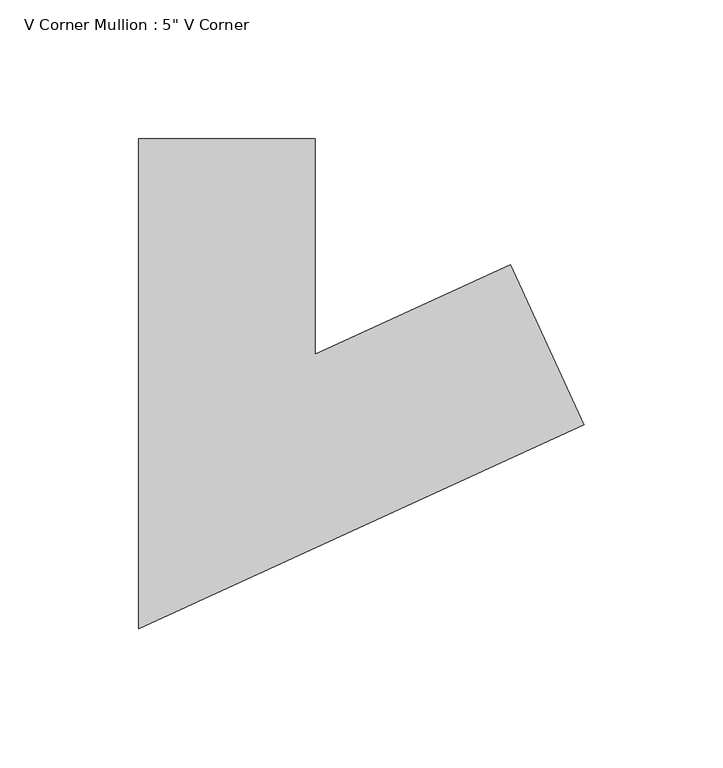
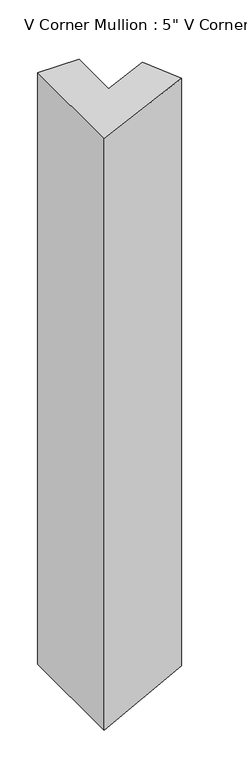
"""IFC4 building model written with IfcOpenShell, lengths in millimetres: member geometry."""

import ifcopenshell
import ifcopenshell.guid

model = None  # the IFC model being written
_history = None  # IfcOwnerHistory: only IFC2X3 demands one
_inside = {}  # id of a spatial element -> (the spatial element, [elements in it])
_under = {}  # id of a project, library or spatial element -> (it, [spatial elements below it])
_declared = {}  # id of a project -> (the project, [libraries it declares])
_typed = {}  # id of a type object -> (the type object, [elements of that type])
_made_of = {}  # id of a material, layer set ... -> (it, [elements and type objects made of it])


def new_model(schema):
    """Start an empty IFC model of exactly this schema.

    Asked for "IFC4X3", IfcOpenShell would pick the latest addendum, in which some entities
    have other attributes; the version numbers below select the first issue.
    IFC2X3 requires an IfcOwnerHistory on every rooted entity: one is made here for all.
    """
    global model, _history
    if schema == "IFC4X3":
        model = ifcopenshell.file(schema_version=(4, 3, 0, 0))
    else:
        model = ifcopenshell.file(schema=schema)
    _inside.clear()
    _under.clear()
    _declared.clear()
    _typed.clear()
    _made_of.clear()
    _history = None
    if model.schema == "IFC2X3":
        org = make("IfcOrganization", Name="unknown")
        user = make(
            "IfcPersonAndOrganization",
            ThePerson=make("IfcPerson", FamilyName="unknown"),
            TheOrganization=org,
        )
        app = make(
            "IfcApplication",
            ApplicationDeveloper=org,
            Version="unknown",
            ApplicationFullName="unknown",
            ApplicationIdentifier="unknown",
        )
        _history = make(
            "IfcOwnerHistory",
            OwningUser=user,
            OwningApplication=app,
            ChangeAction="ADDED",
            CreationDate=0,
        )
    return model


def make(cls, **values):
    """One entity of the class cls with the attributes given. An attribute that is None is left unset."""
    return model.create_entity(
        cls, **{name: value for name, value in values.items() if value is not None}
    )


def rooted(cls, **values):
    """An entity with a GlobalId (a new one), such as an element, a storey or a relation."""
    return make(cls, GlobalId=ifcopenshell.guid.new(), OwnerHistory=_history, **values)


def si_unit(unit_type, name, prefix=None):
    """IfcSIUnit, for example si_unit("LENGTHUNIT", "METRE", prefix="MILLI")."""
    return make("IfcSIUnit", UnitType=unit_type, Prefix=prefix, Name=name)


def assignment(units):
    """IfcUnitAssignment: the units of a project."""
    return None if units is None else make("IfcUnitAssignment", Units=units)


def point(xyz):
    """IfcCartesianPoint."""
    return None if xyz is None else make("IfcCartesianPoint", Coordinates=xyz)


def direction(xyz):
    """IfcDirection."""
    return None if xyz is None else make("IfcDirection", DirectionRatios=xyz)


def frame(location, z_axis=None, x_axis=None):
    """IfcAxis2Placement3D, a coordinate frame: its origin and axes. An axis left out is left unset."""
    return make(
        "IfcAxis2Placement3D",
        Location=point(location),
        Axis=direction(z_axis),
        RefDirection=direction(x_axis),
    )


def origin():
    """The frame at (0, 0, 0) with its axes left unset."""
    return frame((0.0, 0.0, 0.0))


def place(relative_to, where):
    """IfcLocalPlacement: puts the frame where relative to a parent placement (None: the world)."""
    return make(
        "IfcLocalPlacement", PlacementRelTo=relative_to, RelativePlacement=where
    )


def context(
    kind, dimensions, precision=None, world=None, true_north=None, identifier=None
):
    """IfcGeometricRepresentationContext, for example the 3D "Model" context."""
    return make(
        "IfcGeometricRepresentationContext",
        ContextIdentifier=identifier,
        ContextType=kind,
        CoordinateSpaceDimension=dimensions,
        Precision=precision,
        WorldCoordinateSystem=world,
        TrueNorth=true_north,
    )


def project(units=None, contexts=None):
    """IfcProject with its units and contexts."""
    return rooted(
        "IfcProject",
        Name="project",
        RepresentationContexts=contexts,
        UnitsInContext=assignment(units),
    )


def spatial(cls, under=None, at=None, **own):
    """A site, building, storey or space (cls), placed at a placement, below another one or the project."""
    s = rooted(cls, ObjectPlacement=at, **own)
    if under is not None:
        _under.setdefault(under.id(), (under, []))[1].append(s)
    return s


def faces_of(points, faces, orient=None, outer=None):
    """IfcFace entities. A face is a list of loops; a loop is a list of indices into points, from 0.

    orient and outer hold one flag for each loop. By default every Orientation is true, the
    first loop of a face is its IfcFaceOuterBound and the others are IfcFaceBound.
    """
    made = []
    for i, loops in enumerate(faces):
        bounds = []
        for j, loop in enumerate(loops):
            is_outer = j == 0 if outer is None else outer[i][j]
            bounds.append(
                make(
                    "IfcFaceOuterBound" if is_outer else "IfcFaceBound",
                    Bound=make("IfcPolyLoop", Polygon=[points[k] for k in loop]),
                    Orientation=True if orient is None else orient[i][j],
                )
            )
        made.append(make("IfcFace", Bounds=bounds))
    return made


def faceted_brep(points, faces, orient=None, outer=None, voids=None):
    """IfcFacetedBrep: a solid bounded by flat faces; with voids (closed shells), ...WithVoids."""
    shared = [point(p) for p in points]
    hull = make("IfcClosedShell", CfsFaces=faces_of(shared, faces, orient, outer))
    if voids is None:
        return make("IfcFacetedBrep", Outer=hull)
    return make(
        "IfcFacetedBrepWithVoids",
        Outer=hull,
        Voids=[
            make(cls, CfsFaces=faces_of(shared, fs, o, b)) for cls, fs, o, b in voids
        ],
    )


def shape(context_of_items, identifier, shape_type, items):
    """IfcShapeRepresentation: the items that make up one representation, for example the "Body"."""
    return make(
        "IfcShapeRepresentation",
        ContextOfItems=context_of_items,
        RepresentationIdentifier=identifier,
        RepresentationType=shape_type,
        Items=items,
    )


def source(mapping_origin, context_of_items, identifier, shape_type, items):
    """IfcRepresentationMap: a shape defined once, which mapped items show again and again."""
    return make(
        "IfcRepresentationMap",
        MappingOrigin=mapping_origin,
        MappedRepresentation=shape(context_of_items, identifier, shape_type, items),
    )


def transform(
    local_origin,
    x_axis=None,
    y_axis=None,
    z_axis=None,
    scale=None,
    scale2=None,
    scale3=None,
    uniform=True,
):
    """IfcCartesianTransformationOperator3D, or its non-uniform kind. x_axis, y_axis, z_axis: its Axis1, 2, 3."""
    if uniform:
        return make(
            "IfcCartesianTransformationOperator3D",
            Axis1=direction(x_axis),
            Axis2=direction(y_axis),
            LocalOrigin=point(local_origin),
            Scale=scale,
            Axis3=direction(z_axis),
        )
    return make(
        "IfcCartesianTransformationOperator3DnonUniform",
        Axis1=direction(x_axis),
        Axis2=direction(y_axis),
        LocalOrigin=point(local_origin),
        Scale=scale,
        Axis3=direction(z_axis),
        Scale2=scale2,
        Scale3=scale3,
    )


def mapped(mapping_source, mapping_target):
    """IfcMappedItem: shows the shape of a source again, moved by a transform."""
    return make(
        "IfcMappedItem", MappingSource=mapping_source, MappingTarget=mapping_target
    )


def made_of(thing, what):
    """Note that an element or type object is made of a material, layer set ...; save() writes the relation."""
    if what is not None:
        _made_of.setdefault(what.id(), (what, []))[1].append(thing)
    return thing


def element(
    cls,
    number,
    at=None,
    inside=None,
    cuts=None,
    type_object=None,
    material=None,
    context=None,
    identifier="Body",
    shape_type=None,
    held_by="IfcProductDefinitionShape",
    body=None,
    shapes=None,
    **own,
):
    """One element of the class cls, such as IfcWall. Its Tag is "e" and its number.

    at: its placement. inside: the storey or other place that contains it. cuts: it is an
    opening in that element (IfcRelVoidsElement). A single representation is given by context,
    identifier, shape_type and body (its items); several are given by shapes. held_by: the class
    of the entity that holds the representations. save() writes the other relations.
    """
    e = rooted(cls, Tag="e%d" % number, ObjectPlacement=at, **own)
    if body is not None:
        shapes = [shape(context, identifier, shape_type, body)]
    if shapes is not None:
        e.Representation = make(held_by, Representations=shapes)
    if inside is not None:
        _inside.setdefault(inside.id(), (inside, []))[1].append(e)
    if cuts is not None:
        rooted(
            "IfcRelVoidsElement", RelatingBuildingElement=cuts, RelatedOpeningElement=e
        )
    if type_object is not None:
        _typed.setdefault(type_object.id(), (type_object, []))[1].append(e)
    return made_of(e, material)


def aggregate(whole, parts):
    """IfcRelAggregates: a whole, such as a stair, and the parts it consists of."""
    return rooted("IfcRelAggregates", RelatingObject=whole, RelatedObjects=parts)


def save(model, path):
    """Write the relations noted so far, then the file.

    IfcRelAggregates (storeys below a building ...), IfcRelContainedInSpatialStructure (elements
    in a storey), IfcRelDefinesByType, IfcRelAssociatesMaterial and IfcRelDeclares: one each for
    every whole, place, type object, material and project.
    """
    for whole, parts in _under.values():
        aggregate(whole, parts)
    for where, things in _inside.values():
        rooted(
            "IfcRelContainedInSpatialStructure",
            RelatedElements=things,
            RelatingStructure=where,
        )
    for kind, things in _typed.values():
        rooted("IfcRelDefinesByType", RelatedObjects=things, RelatingType=kind)
    for what, things in _made_of.values():
        rooted("IfcRelAssociatesMaterial", RelatedObjects=things, RelatingMaterial=what)
    for by, libraries in _declared.values():
        rooted("IfcRelDeclares", RelatingContext=by, RelatedDefinitions=libraries)
    model.write(path)


def member_f594da15(model_context):
    return source(origin(), model_context, "Body", "Brep", [
        faceted_brep([(61.49523, 18.2208415, -1.1214562), (87.9205542, -39.5195451, -1.603361), (87.9205542, -39.5195451, -950.6892233), (61.49523, 18.2208415, -951.3157002), (-9.0228811, -14.0523047, 0.1645455), (-9.0228811, -14.0523047, -952.9875043), (-9.0228811, 63.5, 0.1645455), (-9.0228811, 63.5, -952.9875043), (-72.5228811, 63.5, 1.3225617), (-72.5228811, 63.5, -954.492927), (-72.5228811, -112.9476953, 1.3225617), (-72.5228811, -112.9476953, -954.492927)], [[[0, 1, 2, 3]], [[4, 0, 3, 5]], [[6, 4, 5, 7]], [[8, 6, 7, 9]], [[10, 8, 9, 11]], [[1, 10, 11, 2]], [[1, 0, 4, 6, 8, 10]], [[2, 11, 9, 7, 5, 3]]]),
    ])


if __name__ == "__main__":
    model = new_model("IFC4")
    model_context = context("Model", 3, world=origin())
    ifc_project = project(units=[si_unit("LENGTHUNIT", "METRE", prefix="MILLI")], contexts=[model_context])
    site = spatial("IfcSite", under=ifc_project)
    building = spatial("IfcBuilding", under=site)
    placement = place(None, origin())
    member_shape = member_f594da15(model_context)
    element("IfcMember", 1, ObjectType="V Corner Mullion : 5\" V Corner", at=placement, inside=building, context=model_context, shape_type="MappedRepresentation", body=[
        mapped(member_shape, transform((0.0, 0.0, 0.0), x_axis=(1.0, 0.0, 0.0), y_axis=(0.0, 1.0, 0.0), z_axis=(0.0, 0.0, 1.0))),
    ])
    save(model, "model.ifc")
